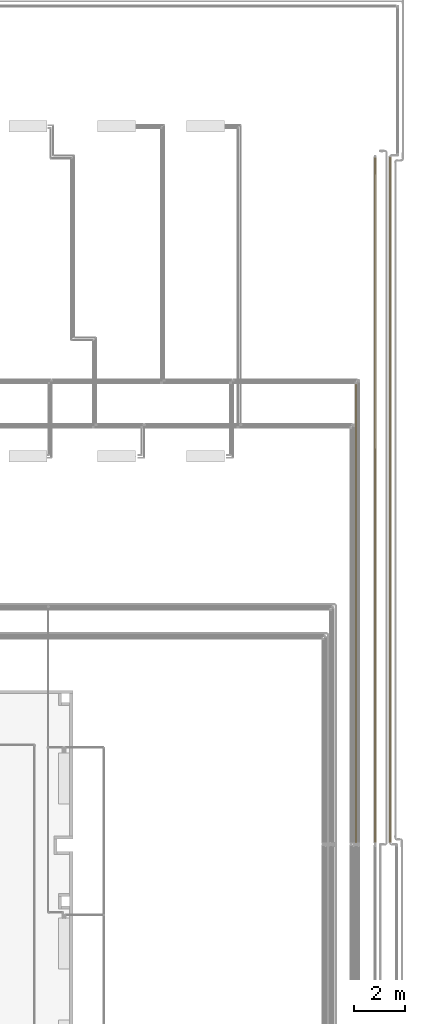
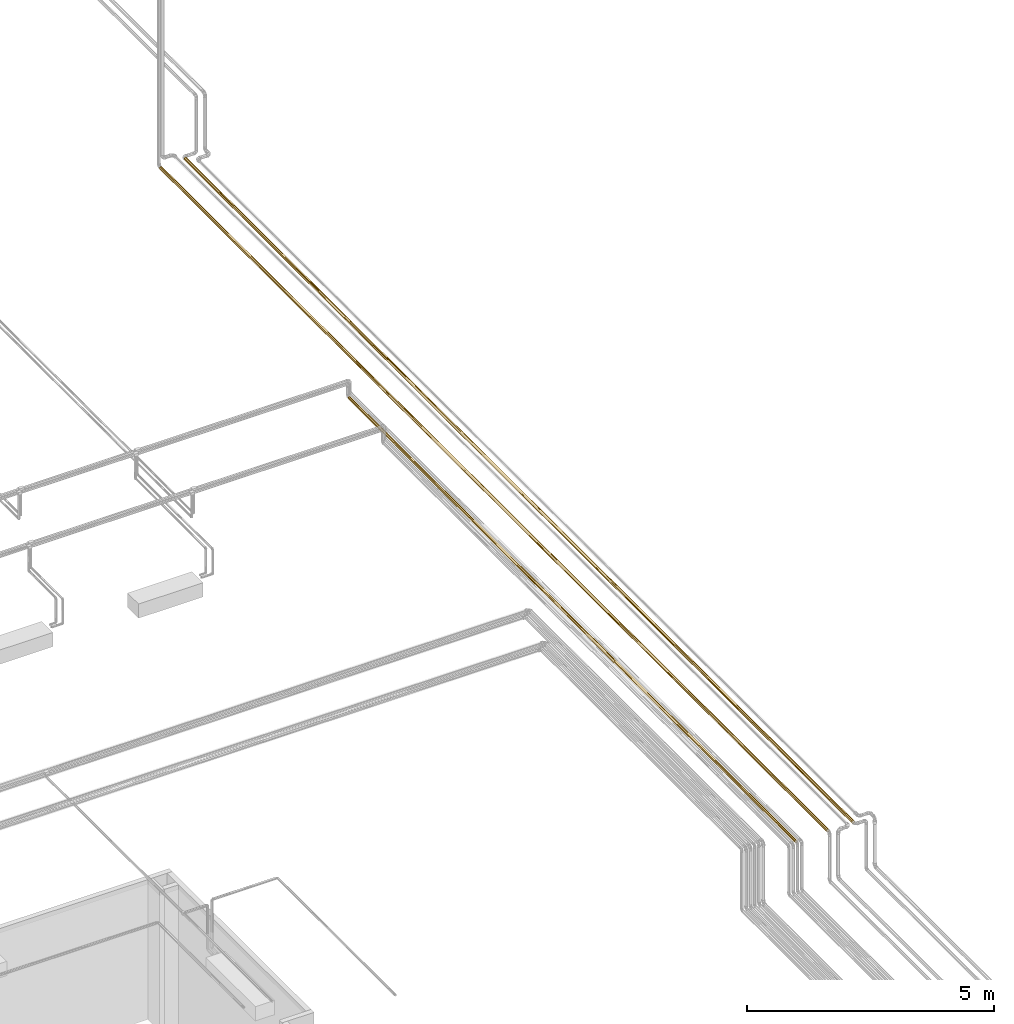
# One storey, part 138 of 652: 3 coverings.
"""IFC2X3 building model written with IfcOpenShell, lengths in millimetres."""

from ifc_helpers import new_model, entity, si_unit, converted_unit, direction, frame, origin, place, context, subcontext, project, spatial, faceted_brep, material, type_object, element, save


model = new_model("IFC2X3")

# Units and contexts
model_context = context("Model", 3, precision=0.01, world=frame((0.0, 0.0, 308426.39999999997)), true_north=direction((6.123233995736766e-17, 1.0)))
plan_context = context("Plan", 3, precision=0.01, world=frame((0.0, 0.0, 308426.39999999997)), true_north=direction((6.123233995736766e-17, 1.0)))
body_context = subcontext(model_context, "Body", "Model", "MODEL_VIEW")
ifc_project = project(units=[si_unit("LENGTHUNIT", "METRE", prefix="MILLI"), si_unit("AREAUNIT", "SQUARE_METRE"), si_unit("VOLUMEUNIT", "CUBIC_METRE"), converted_unit("PLANEANGLEUNIT", "DEGREE", entity("IfcPlaneAngleMeasure", 0.017453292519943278), si_unit("PLANEANGLEUNIT", "RADIAN"), dimensions=[0, 0, 0, 0, 0, 0, 0])], contexts=[model_context, plan_context])

# Site, building, storey
site_placement = place(None, origin())
site = spatial("IfcSite", under=ifc_project, at=site_placement, Name="Default", CompositionType="ELEMENT")
building_placement = place(site_placement, origin())
building = spatial("IfcBuilding", under=site, at=building_placement, CompositionType="ELEMENT")
storey_placement = place(building_placement, frame((0.0, 0.0, 1730.6999999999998)))
storey = spatial("IfcBuildingStorey", under=building, at=storey_placement, Name="EG_Produktion_FFB", CompositionType="ELEMENT", Elevation=1730.6999999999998)

# Coverings
ifc_material = material(Name="Dämmung - Armaflex-Schlauch")
covering_type = type_object("IfcCoveringType", Name="Rohrdämmung außen:Armaflex-Schlauch", PredefinedType="INSULATION")
covering_1_placement = place(storey_placement, frame((79083.9974754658, 51712.278353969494, 3561.9047277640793)))
element("IfcCovering", 1, at=covering_1_placement, inside=storey, type_object=covering_type, material=ifc_material, Name="Rohrdämmung außen:Armaflex-Schlauch", ObjectType="Rohrdämmung außen:Armaflex-Schlauch", PredefinedType="INSULATION", context=body_context, shape_type="Brep", body=[
    faceted_brep([(63.9046697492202, 26992.20174999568, 12.285874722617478), (57.45232037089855, 26992.20174999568, 9.61322410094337), (50.99997099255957, 26992.20174999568, 6.940573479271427), (44.172828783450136, 26992.20174999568, 4.112678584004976), (38.09527223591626, 26992.20174999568, 1.5952722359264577), (31.642922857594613, 26992.20174999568, 4.267922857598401), (25.190573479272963, 26992.20174999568, 6.940573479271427), (18.73822410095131, 26992.20174999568, 9.61322410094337), (12.285874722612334, 26992.20174999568, 12.285874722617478), (9.61322410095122, 26992.20174999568, 18.738224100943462), (6.94057347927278, 26992.20174999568, 25.19057347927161), (4.112678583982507, 26992.20174999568, 32.017715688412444), (1.5952722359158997, 26992.20174999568, 38.09527223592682), (4.26792285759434, 26992.20174999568, 44.54762161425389), (6.94057347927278, 26992.20174999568, 50.999970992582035), (9.61322410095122, 26992.20174999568, 57.452320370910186), (12.285874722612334, 26992.20174999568, 63.90466974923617), (18.73822410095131, 26992.20174999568, 66.57732037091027), (25.190573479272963, 26992.20174999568, 69.24997099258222), (32.017715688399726, 26992.20174999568, 72.07786588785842), (38.09527223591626, 26992.20174999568, 74.59527223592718), (44.54762161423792, 26992.20174999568, 71.92262161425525), (50.99997099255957, 26992.20174999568, 69.24997099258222), (57.45232037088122, 26992.201749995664, 66.57732037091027), (63.9046697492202, 26992.20174999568, 63.90466974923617), (66.57732037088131, 26992.20174999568, 57.452320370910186), (69.24997099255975, 26992.20174999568, 50.999970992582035), (72.07786588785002, 26992.20174999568, 44.17282878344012), (74.59527223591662, 26992.20174999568, 38.09527223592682), (71.9226216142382, 26992.20174999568, 31.642922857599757), (69.24997099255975, 26992.20174999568, 25.19057347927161), (66.57732037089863, 26992.20174999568, 18.738224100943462), (63.9046697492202, 0.0, 63.90466974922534), (57.45232037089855, 0.0, 66.57732037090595), (50.99997099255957, 0.0, 69.24997099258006), (44.172828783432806, 0.0, 72.07786588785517), (38.09527223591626, 0.0, 74.59527223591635), (32.017715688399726, 0.0, 72.07786588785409), (25.94015914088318, 0.0, 69.56045953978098), (19.113016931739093, 0.0, 66.73256464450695), (12.285874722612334, 0.0, 63.90466974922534), (9.613224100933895, 0.0, 57.452320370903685), (6.94057347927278, 0.0, 50.999970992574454), (4.112678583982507, 0.0, 44.17282878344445), (1.5952722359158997, 0.0, 38.09527223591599), (4.112678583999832, 0.0, 32.01771568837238), (6.630084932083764, 0.0, 25.94015914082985), (9.457979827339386, 0.0, 19.113016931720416), (12.285874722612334, 0.0, 12.28587472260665), (18.738224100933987, 0.0, 9.613224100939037), (25.190573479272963, 0.0, 6.940573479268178), (32.01771568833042, 0.0, 4.1126785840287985), (38.09527223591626, 0.0, 1.595272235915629), (44.17282878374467, 0.0, 4.112678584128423), (50.25038533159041, 0.0, 6.6300849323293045), (57.0775275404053, 0.0, 9.45797982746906), (63.9046697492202, 0.0, 12.28587472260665), (66.57732037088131, 0.0, 18.73822410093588), (69.24997099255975, 0.0, 25.190573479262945), (72.077865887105, 0.0, 32.017715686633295), (74.59527223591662, 0.0, 38.09527223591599), (72.0778658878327, 0.0, 44.17282878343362), (69.56045953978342, 0.0, 50.25038533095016), (66.73256464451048, 0.0, 57.077527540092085), (73.08344756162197, 10332.713380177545, 27.699235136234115), (68.44391308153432, 13496.100872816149, 17.816958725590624), (73.80179550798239, 19757.87532379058, 30.525979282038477), (74.59527223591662, 13500.936145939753, 38.095272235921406), (74.59527223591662, 13496.10087499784, 38.095272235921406), (71.29040443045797, 19041.46223321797, 22.918540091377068), (63.726674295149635, 10556.599128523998, 12.109098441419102), (64.13432607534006, 18514.534014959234, 12.517592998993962), (45.57509309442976, 7533.188062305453, 2.3698991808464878), (38.09527223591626, 13496.10087499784, 1.5952722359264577), (38.09527223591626, 13501.058250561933, 1.5952722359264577), (53.576602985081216, 8100.38803177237, 5.041098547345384), (58.373585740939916, 14535.566574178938, 7.746631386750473), (48.49130932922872, 16660.6212593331, 3.10709690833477), (30.52597928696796, 19757.87532781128, 2.388748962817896), (12.408631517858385, 16404.0607295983, 12.163699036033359), (17.81695872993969, 13496.100874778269, 7.746631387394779), (27.699235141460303, 10332.713382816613, 3.1070969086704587), (12.0223308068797, 8849.853165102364, 12.552137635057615), (22.918540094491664, 19041.46223891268, 4.900140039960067), (2.369899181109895, 7533.188062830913, 30.615451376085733), (1.5952722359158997, 13494.262920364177, 38.095272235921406), (1.5952722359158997, 13501.631308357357, 38.095272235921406), (5.041098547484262, 8100.388029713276, 22.61394148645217), (7.746631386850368, 14535.566570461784, 17.816958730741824), (3.1070969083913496, 16660.621260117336, 27.699235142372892), (2.3887489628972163, 19757.875327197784, 45.664565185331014), (12.163699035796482, 16404.060729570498, 63.78191295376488), (7.746631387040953, 13496.100874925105, 58.37358574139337), (3.107096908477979, 10332.71338193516, 48.49130932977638), (12.552137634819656, 8849.853165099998, 64.1682136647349), (4.9001400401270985, 19041.462239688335, 53.27200437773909), (30.61545137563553, 7533.18806300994, 73.82064529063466), (38.09527223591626, 13496.100874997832, 74.59527223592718), (38.09527223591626, 13500.936146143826, 74.59527223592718), (22.61394148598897, 8100.388029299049, 71.149445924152), (17.816958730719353, 14535.56657030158, 68.44391308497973), (27.699235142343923, 16660.62126031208, 73.083447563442), (45.66456518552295, 19757.875326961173, 73.80179550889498), (63.78191295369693, 16404.060729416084, 64.02684543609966), (58.37358574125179, 13496.100874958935, 68.44391308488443), (48.49130932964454, 10332.7133816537, 73.08344756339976), (64.16821366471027, 8849.853165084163, 63.63840683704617), (53.272004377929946, 19041.46223995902, 71.29040443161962), (73.82064529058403, 7533.188063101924, 45.575093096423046), (71.14944592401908, 8100.388029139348, 53.57660298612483), (68.44391308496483, 14535.56657037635, 58.37358574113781), (73.08344756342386, 16660.621260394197, 48.49130932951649)], [[[0, 1, 2, 3, 4, 5, 6, 7, 8, 9, 10, 11, 12, 13, 14, 15, 16, 17, 18, 19, 20, 21, 22, 23, 24, 25, 26, 27, 28, 29, 30, 31]], [[32, 33, 34, 35, 36, 37, 38, 39, 40, 41, 42, 43, 44, 45, 46, 47, 48, 49, 50, 51, 52, 53, 54, 55, 56, 57, 58, 59, 60, 61, 62, 63]], [[58, 64, 59]], [[65, 58, 57]], [[66, 28, 67, 68]], [[30, 69, 31]], [[65, 70, 71]], [[64, 66, 68]], [[72, 52, 73, 74]], [[70, 75, 76]], [[68, 60, 59]], [[64, 68, 59]], [[77, 3, 2]], [[76, 77, 2]], [[71, 1, 0]], [[72, 74, 77]], [[31, 69, 71]], [[70, 76, 71]], [[57, 56, 70]], [[58, 65, 64]], [[66, 69, 30]], [[69, 64, 65]], [[66, 30, 29, 28]], [[64, 69, 66]], [[69, 65, 71]], [[74, 3, 77]], [[74, 4, 3]], [[72, 75, 54]], [[75, 77, 76]], [[72, 54, 53, 52]], [[77, 75, 72]], [[76, 2, 1]], [[70, 55, 75]], [[55, 54, 75]], [[1, 71, 76]], [[31, 71, 0]], [[57, 70, 65]], [[55, 70, 56]], [[78, 4, 74, 73]], [[79, 7, 80]], [[51, 81, 73]], [[80, 50, 49]], [[80, 82, 79]], [[7, 6, 83]], [[84, 44, 85, 86]], [[82, 87, 88]], [[81, 78, 73]], [[81, 51, 50]], [[11, 89, 86]], [[89, 11, 10]], [[79, 9, 8]], [[84, 86, 89]], [[82, 88, 79]], [[49, 48, 82]], [[73, 52, 51]], [[50, 80, 81]], [[78, 83, 6]], [[83, 81, 80]], [[78, 6, 5, 4]], [[81, 83, 78]], [[7, 83, 80]], [[86, 12, 11]], [[88, 89, 10]], [[84, 87, 46]], [[87, 89, 88]], [[84, 46, 45, 44]], [[89, 87, 84]], [[88, 10, 9]], [[82, 47, 87]], [[47, 46, 87]], [[49, 82, 80]], [[47, 82, 48]], [[9, 79, 88]], [[7, 79, 8]], [[90, 12, 86, 85]], [[91, 15, 92]], [[43, 93, 85]], [[92, 42, 41]], [[92, 94, 91]], [[15, 14, 95]], [[96, 36, 97, 98]], [[94, 99, 100]], [[93, 90, 85]], [[93, 43, 42]], [[19, 101, 98]], [[101, 19, 18]], [[91, 17, 16]], [[96, 98, 101]], [[94, 100, 91]], [[41, 40, 94]], [[85, 44, 43]], [[42, 92, 93]], [[90, 95, 14]], [[95, 93, 92]], [[90, 14, 13, 12]], [[93, 95, 90]], [[15, 95, 92]], [[98, 20, 19]], [[100, 101, 18]], [[96, 99, 38]], [[99, 101, 100]], [[96, 38, 37, 36]], [[101, 99, 96]], [[100, 18, 17]], [[94, 39, 99]], [[39, 38, 99]], [[41, 94, 92]], [[39, 94, 40]], [[17, 91, 100]], [[15, 91, 16]], [[102, 20, 98, 97]], [[103, 23, 104]], [[35, 105, 97]], [[104, 34, 33]], [[104, 106, 103]], [[23, 22, 107]], [[108, 60, 68, 67]], [[106, 109, 110]], [[105, 102, 97]], [[105, 35, 34]], [[27, 111, 67]], [[111, 27, 26]], [[103, 25, 24]], [[108, 67, 111]], [[106, 110, 103]], [[33, 32, 106]], [[97, 36, 35]], [[34, 104, 105]], [[102, 107, 22]], [[107, 105, 104]], [[102, 22, 21, 20]], [[105, 107, 102]], [[23, 107, 104]], [[67, 28, 27]], [[110, 111, 26]], [[108, 109, 62]], [[109, 111, 110]], [[108, 62, 61, 60]], [[111, 109, 108]], [[110, 26, 25]], [[106, 63, 109]], [[63, 62, 109]], [[33, 106, 104]], [[63, 106, 32]], [[25, 103, 110]], [[23, 103, 24]]]),
])
covering_2_placement = place(storey_placement, frame((78491.9047277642, 51712.27835396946, 3638.095272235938)))
element("IfcCovering", 2, at=covering_2_placement, inside=storey, type_object=covering_type, material=ifc_material, Name="Rohrdämmung außen:Armaflex-Schlauch", ObjectType="Rohrdämmung außen:Armaflex-Schlauch", PredefinedType="INSULATION", context=body_context, shape_type="Brep", body=[
    faceted_brep([(63.9046697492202, 0.0, -12.285874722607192), (57.45232037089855, 0.0, -9.613224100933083), (50.99997099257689, 0.0, -6.940573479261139), (44.172828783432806, 0.0, -4.112678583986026), (38.09527223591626, 0.0, -1.5952722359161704), (31.64292285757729, 0.0, -4.267922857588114), (25.190573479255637, 0.0, -6.940573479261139), (18.738224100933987, 0.0, -9.613224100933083), (12.285874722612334, 0.0, -12.285874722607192), (9.613224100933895, 0.0, -18.738224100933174), (6.9405734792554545, 0.0, -25.19057347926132), (4.112678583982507, 0.0, -32.01771568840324), (1.5952722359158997, 0.0, -38.09527223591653), (4.267922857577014, 0.0, -44.54762161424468), (6.9405734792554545, 0.0, -50.99997099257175), (9.613224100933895, 0.0, -57.4523203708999), (12.285874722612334, 0.0, -63.90466974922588), (18.738224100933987, 0.0, -66.57732037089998), (25.190573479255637, 0.0, -69.24997099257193), (32.017715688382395, 0.0, -72.07786588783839), (38.09527223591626, 0.0, -74.5952722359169), (44.54762161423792, 0.0, -71.92262161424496), (50.99997099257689, 0.0, -69.24997099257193), (57.45232037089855, 0.0, -66.57732037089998), (63.9046697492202, 0.0, -63.90466974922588), (66.57732037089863, 0.0, -57.4523203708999), (69.24997099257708, 0.0, -50.99997099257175), (72.07786588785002, 0.0, -44.172828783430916), (74.59527223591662, 0.0, -38.09527223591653), (71.92262161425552, 0.0, -31.64292285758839), (69.24997099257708, 0.0, -25.19057347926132), (66.57732037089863, 0.0, -18.738224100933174), (63.904669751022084, 26962.332307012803, -63.90466974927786), (57.4523203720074, 26962.332307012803, -66.57732037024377), (50.999970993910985, 26962.332307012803, -69.24997099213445), (44.17282878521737, 26962.332307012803, -72.077865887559), (38.095272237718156, 26962.332307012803, -74.59527223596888), (32.017715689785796, 26962.332307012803, -72.07786588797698), (25.940159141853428, 26962.332307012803, -69.56045954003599), (19.113016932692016, 26962.332307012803, -66.7325646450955), (12.285874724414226, 26962.332307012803, -63.90466974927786), (9.61322410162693, 26962.332307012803, -57.452320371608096), (6.940573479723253, 26962.332307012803, -50.999970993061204), (4.112678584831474, 26962.332307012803, -44.172828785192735), (1.5952722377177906, 26962.332307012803, -38.095272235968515), (4.26792285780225, 26962.332307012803, -31.642922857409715), (6.940573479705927, 26962.332307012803, -25.19057347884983), (9.613224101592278, 26962.332307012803, -18.73822410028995), (12.285874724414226, 26962.332307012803, -12.285874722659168), (19.113016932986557, 26962.332307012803, -9.457979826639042), (25.94015914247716, 26962.332307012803, -6.630084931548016), (32.01771569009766, 26962.332307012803, -4.112678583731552), (38.095272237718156, 26962.332307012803, -1.5952722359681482), (44.54762161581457, 26962.332307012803, -4.267922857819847), (50.99997099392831, 26962.332307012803, -6.940573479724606), (57.45232037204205, 26962.332307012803, -9.613224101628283), (63.904669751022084, 26962.332307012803, -12.285874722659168), (66.73256464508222, 26962.332307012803, -19.113016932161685), (69.560459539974, 26962.332307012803, -25.94015914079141), (72.07786588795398, 26962.332307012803, -32.01771568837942), (74.59527223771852, 26962.332307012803, -38.095272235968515), (72.07786588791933, 26962.332307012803, -44.172828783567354), (69.56045953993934, 26962.332307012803, -50.25038533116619), (66.73256464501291, 26962.332307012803, -57.0775275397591), (3.107096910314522, 16633.115121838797, -48.49130933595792), (7.74663139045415, 13481.166156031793, -58.373585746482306), (2.3867652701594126, 7217.221091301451, -45.655201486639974), (1.5952722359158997, 13481.16615350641, -38.095272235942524), (12.547895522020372, 18120.775377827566, -64.16405707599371), (12.164317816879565, 10560.276754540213, -63.782537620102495), (4.894880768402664, 7951.331193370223, -53.260495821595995), (22.63481744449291, 18861.949108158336, -71.15921540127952), (17.816958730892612, 12455.491905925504, -68.44391308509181), (30.63038395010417, 19444.399929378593, -73.8237684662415), (38.09527223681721, 13481.101222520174, -74.5952722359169), (38.09527223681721, 13461.46397605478, -74.5952722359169), (27.699235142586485, 10324.60261616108, -73.08344756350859), (1.5952722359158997, 13500.93614593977, -38.095272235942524), (45.65520148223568, 7217.221087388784, -73.80377920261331), (63.78253761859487, 10560.276752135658, -64.02622665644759), (58.373585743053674, 13481.166154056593, -68.44391308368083), (48.49130933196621, 16633.115118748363, -73.08344756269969), (64.16405707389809, 18120.775377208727, -63.6426489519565), (53.26049581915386, 7951.331187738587, -71.29566370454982), (74.59527223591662, 13464.27548533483, -38.095272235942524), (73.82376846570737, 19444.39992888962, -45.56016052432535), (71.15921540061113, 18861.949110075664, -53.55572702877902), (68.44391308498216, 12455.491908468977, -58.373585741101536), (73.08344756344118, 10324.602614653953, -48.49130932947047), (74.59527223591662, 13459.534758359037, -38.095272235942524), (73.9728190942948, 20211.86423364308, -31.38322102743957), (64.13104295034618, 18487.72532670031, -12.514251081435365), (58.37358574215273, 14506.84039786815, -7.746631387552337), (63.728594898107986, 10525.955468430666, -12.110992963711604), (45.662875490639, 19745.94371502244, -2.3883908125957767), (38.095272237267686, 20211.867471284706, -1.5952722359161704), (38.09527223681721, 13500.928015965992, -1.5952722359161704), (73.17244163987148, 9986.965550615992, -28.003583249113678), (48.49130932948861, 10333.847193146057, -3.1070969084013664), (71.56252078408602, 18728.591472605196, -23.528416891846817), (68.44391308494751, 13481.166153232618, -17.816958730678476), (52.12095197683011, 16687.866440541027, -4.397641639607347), (38.09527223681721, 13461.402635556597, -1.5952722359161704), (30.46691407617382, 7282.528483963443, -2.4013210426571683), (12.514251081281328, 18487.725326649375, -12.059501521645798), (7.746631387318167, 14506.840397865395, -17.81695873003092), (28.09895012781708, 16836.63019801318, -2.99080607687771), (17.816958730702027, 13481.16615321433, -7.746631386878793), (2.3883908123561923, 19745.943715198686, -30.527668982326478), (3.1070969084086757, 10333.847193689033, -27.69923514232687), (22.877778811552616, 7920.771241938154, -4.918806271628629), (12.110992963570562, 10525.955468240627, -12.461949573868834), (4.397641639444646, 16687.86644159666, -24.069592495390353)], [[[0, 1, 2, 3, 4, 5, 6, 7, 8, 9, 10, 11, 12, 13, 14, 15, 16, 17, 18, 19, 20, 21, 22, 23, 24, 25, 26, 27, 28, 29, 30, 31]], [[32, 33, 34, 35, 36, 37, 38, 39, 40, 41, 42, 43, 44, 45, 46, 47, 48, 49, 50, 51, 52, 53, 54, 55, 56, 57, 58, 59, 60, 61, 62, 63]], [[42, 64, 43]], [[65, 42, 41]], [[66, 12, 67]], [[43, 64, 67]], [[65, 68, 69]], [[64, 66, 67]], [[15, 14, 70]], [[68, 71, 72]], [[69, 15, 65]], [[73, 36, 74, 75]], [[19, 76, 75]], [[76, 19, 18]], [[69, 17, 16]], [[73, 75, 76]], [[68, 72, 69]], [[41, 40, 68]], [[43, 67, 77, 44]], [[42, 65, 64]], [[66, 70, 14]], [[70, 64, 65]], [[66, 14, 13, 12]], [[64, 70, 66]], [[15, 70, 65]], [[75, 20, 19]], [[72, 76, 18]], [[73, 71, 38]], [[71, 76, 72]], [[73, 38, 37, 36]], [[76, 71, 73]], [[72, 18, 17]], [[68, 39, 71]], [[39, 38, 71]], [[41, 68, 65]], [[39, 68, 40]], [[17, 69, 72]], [[15, 69, 16]], [[78, 20, 75, 74]], [[79, 23, 80]], [[35, 81, 74]], [[80, 34, 33]], [[80, 82, 79]], [[23, 22, 83]], [[60, 84, 85]], [[82, 86, 87]], [[81, 78, 74]], [[81, 35, 34]], [[88, 27, 26]], [[87, 88, 26]], [[79, 25, 24]], [[85, 84, 88]], [[82, 87, 79]], [[33, 32, 82]], [[74, 36, 35]], [[34, 80, 81]], [[78, 83, 22]], [[83, 81, 80]], [[78, 22, 21, 20]], [[81, 83, 78]], [[23, 83, 80]], [[84, 27, 88]], [[27, 84, 89, 28]], [[85, 86, 62]], [[86, 88, 87]], [[85, 62, 61, 60]], [[88, 86, 85]], [[87, 26, 25]], [[82, 63, 86]], [[63, 62, 86]], [[33, 82, 80]], [[63, 82, 32]], [[25, 79, 87]], [[23, 79, 24]], [[90, 89, 84, 60]], [[91, 92, 93]], [[94, 52, 95, 96]], [[97, 89, 90]], [[94, 96, 98]], [[92, 1, 93]], [[99, 57, 100]], [[90, 60, 59, 58]], [[97, 28, 89]], [[31, 30, 100]], [[101, 55, 54]], [[3, 2, 1, 98]], [[91, 93, 100]], [[1, 0, 93]], [[58, 99, 90]], [[93, 31, 100]], [[97, 90, 99]], [[97, 30, 29, 28]], [[56, 91, 57]], [[97, 99, 100]], [[99, 58, 57]], [[100, 30, 97]], [[96, 3, 98]], [[3, 96, 102, 4]], [[91, 55, 92]], [[101, 94, 98]], [[94, 54, 53, 52]], [[57, 91, 100]], [[91, 56, 55]], [[98, 1, 92]], [[31, 93, 0]], [[54, 94, 101]], [[98, 92, 101]], [[101, 92, 55]], [[103, 4, 102]], [[104, 47, 105]], [[102, 106, 103]], [[106, 95, 51]], [[107, 50, 49]], [[108, 77, 109]], [[50, 106, 51]], [[49, 48, 104]], [[44, 77, 108]], [[6, 110, 7]], [[109, 11, 10, 9]], [[109, 77, 11]], [[107, 7, 110]], [[9, 8, 111]], [[106, 102, 96, 95]], [[95, 52, 51]], [[107, 106, 50]], [[103, 110, 6]], [[110, 106, 107]], [[103, 6, 5, 4]], [[106, 110, 103]], [[111, 7, 107]], [[109, 9, 105]], [[104, 105, 111]], [[11, 77, 67, 12]], [[111, 107, 104]], [[112, 108, 109]], [[108, 46, 45, 44]], [[46, 108, 112]], [[47, 46, 112]], [[49, 104, 107]], [[47, 104, 48]], [[9, 111, 105]], [[7, 111, 8]], [[109, 105, 112]], [[112, 105, 47]]]),
])
covering_3_placement = place(storey_placement, frame((77745.11722776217, 51698.079103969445, 3565.1172277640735)))
element("IfcCovering", 3, at=covering_3_placement, inside=storey, type_object=covering_type, material=ifc_material, Name="Rohrdämmung außen:Armaflex-Schlauch", ObjectType="Rohrdämmung außen:Armaflex-Schlauch", PredefinedType="INSULATION", context=body_context, shape_type="Brep", body=[
    faceted_brep([(17.22940950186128, 0.0, 8.907534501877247), (23.11386374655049, 0.0, 6.470113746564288), (28.998317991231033, 0.0, 4.032692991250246), (34.88277223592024, 0.0, 1.5952722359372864), (40.686715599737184, 0.0, 3.999344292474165), (46.65168072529, 0.0, 6.470113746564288), (52.53613496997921, 0.0, 8.907534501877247), (58.42058921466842, 0.0, 11.344955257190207), (60.85800996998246, 0.0, 17.22940950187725), (63.295430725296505, 0.0, 23.113863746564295), (65.73285148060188, 0.0, 28.998317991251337), (68.17027223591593, 0.0, 34.882772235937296), (65.76620017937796, 0.0, 40.68671559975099), (63.295430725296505, 0.0, 46.65168072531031), (60.85800996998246, 0.0, 52.53613496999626), (58.42058921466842, 0.0, 58.42058921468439), (52.53613496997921, 0.0, 60.85800996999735), (46.65168072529, 0.0, 63.29543072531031), (40.76722648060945, 0.0, 65.73285148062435), (34.88277223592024, 0.0, 68.17027223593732), (29.078828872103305, 0.0, 65.76620017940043), (23.27488550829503, 0.0, 63.36212812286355), (17.309920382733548, 0.0, 60.891358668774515), (11.344955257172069, 0.0, 58.42058921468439), (8.907534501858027, 0.0, 52.53613496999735), (6.470113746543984, 0.0, 46.65168072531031), (4.0326929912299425, 0.0, 40.76722648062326), (1.5952722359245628, 0.0, 34.882772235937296), (4.0326929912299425, 0.0, 28.998317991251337), (6.470113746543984, 0.0, 23.113863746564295), (8.90753450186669, 0.0, 17.22940950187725), (11.344955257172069, 0.0, 11.344955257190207), (1.5952722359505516, 18056.870146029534, 34.88277223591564), (3.999344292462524, 18056.870146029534, 40.6867155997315), (6.403416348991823, 18056.870146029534, 46.490658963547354), (8.874185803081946, 18056.870146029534, 52.45562408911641), (11.344955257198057, 18056.870146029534, 58.42058921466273), (17.22940950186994, 18056.870146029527, 60.858009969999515), (23.11386374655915, 18056.870146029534, 63.29543072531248), (28.99831799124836, 18056.870146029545, 65.73285148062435), (34.882772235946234, 18056.870146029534, 68.17027223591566), (40.68671559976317, 18056.870146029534, 65.76620017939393), (46.49065896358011, 18056.870146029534, 63.36212812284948), (52.455624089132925, 18056.870146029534, 60.891358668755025), (58.42058921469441, 18056.870146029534, 58.42058921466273), (60.858009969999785, 18056.870146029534, 52.536134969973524), (63.29543072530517, 18056.870146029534, 46.65168072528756), (65.73285148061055, 18056.870146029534, 40.7672264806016), (68.17027223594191, 18056.870146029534, 34.88277223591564), (65.7662001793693, 18056.870146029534, 29.078828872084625), (63.362128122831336, 18056.870146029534, 23.27488550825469), (60.89135866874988, 18056.870146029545, 17.309920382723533), (58.42058921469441, 18056.870146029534, 11.34495525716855), (52.53613496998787, 18056.870146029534, 8.907534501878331), (46.65168072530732, 18056.870146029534, 6.470113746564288), (40.76722648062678, 18056.870146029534, 4.032692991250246), (34.882772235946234, 18056.870146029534, 1.595272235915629), (29.078828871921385, 18056.870146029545, 3.999344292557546), (23.274885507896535, 18056.870146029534, 6.403416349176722), (17.309920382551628, 18056.870146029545, 8.874185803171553), (11.344955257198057, 18056.870146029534, 11.34495525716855), (8.907534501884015, 18056.870146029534, 17.22940950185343), (6.47011374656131, 18056.870146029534, 23.11386374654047), (3.9993442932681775, 18056.870146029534, 29.07882887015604), (2.8652724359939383, 8832.25987802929, 25.775776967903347), (7.205227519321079, 9028.435074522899, 16.38922809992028), (1.5952722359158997, 11610.309902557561, 34.88277223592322), (16.38922810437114, 8101.187082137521, 7.205227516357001), (25.775776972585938, 8832.259874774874, 2.865272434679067), (34.882772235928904, 11610.031161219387, 1.5952722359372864), (11.469899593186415, 11049.263262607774, 11.22067066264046), (34.882772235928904, 6446.595807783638, 1.5952722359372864), (43.989767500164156, 9224.610271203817, 2.8652724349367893), (66.90027203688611, 8832.259875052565, 25.775776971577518), (53.376316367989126, 9028.43507316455, 7.205227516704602), (62.56031695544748, 8101.187079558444, 16.38922810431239), (68.17027223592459, 11610.309909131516, 34.88277223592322), (58.54487380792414, 11049.263261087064, 11.469899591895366), (68.17027223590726, 6446.560236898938, 34.88277223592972), (66.90027203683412, 9224.610270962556, 43.989767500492), (43.98976750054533, 8832.25987514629, 66.90027203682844), (62.560316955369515, 9028.435073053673, 53.376316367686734), (53.37631636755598, 8101.187078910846, 62.56031695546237), (34.88277223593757, 11610.309909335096, 68.17027223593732), (58.29564487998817, 11049.2632610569, 58.54487380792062), (34.882772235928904, 6446.560236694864, 68.17027223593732), (16.389228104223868, 9955.683067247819, 62.56031695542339), (25.775776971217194, 9224.610270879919, 66.90027203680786), (7.205227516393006, 8101.187078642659, 53.37631636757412), (2.8652724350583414, 8832.25987519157, 43.98976750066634), (11.556638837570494, 6927.642059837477, 58.6303859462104)], [[[0, 1, 2, 3, 4, 5, 6, 7, 8, 9, 10, 11, 12, 13, 14, 15, 16, 17, 18, 19, 20, 21, 22, 23, 24, 25, 26, 27, 28, 29, 30, 31]], [[32, 33, 34, 35, 36, 37, 38, 39, 40, 41, 42, 43, 44, 45, 46, 47, 48, 49, 50, 51, 52, 53, 54, 55, 56, 57, 58, 59, 60, 61, 62, 63]], [[64, 62, 65]], [[65, 62, 61]], [[64, 28, 66]], [[65, 31, 30, 29]], [[1, 67, 68]], [[68, 57, 69]], [[69, 2, 68]], [[70, 59, 67]], [[68, 58, 57]], [[68, 67, 58]], [[57, 56, 69]], [[2, 69, 71, 3]], [[67, 1, 0, 31]], [[70, 31, 65]], [[67, 59, 58]], [[62, 64, 63]], [[65, 61, 70]], [[66, 32, 63]], [[28, 27, 66]], [[64, 65, 29]], [[66, 63, 64]], [[2, 1, 68]], [[59, 70, 60]], [[60, 70, 61]], [[31, 70, 67]], [[64, 29, 28]], [[71, 55, 72]], [[73, 50, 49]], [[74, 54, 53]], [[9, 75, 73]], [[76, 10, 73]], [[73, 75, 50]], [[77, 51, 75]], [[73, 49, 76]], [[72, 5, 4]], [[49, 48, 76]], [[10, 76, 78, 11]], [[75, 9, 8, 7]], [[74, 7, 6, 5]], [[75, 51, 50]], [[74, 53, 77]], [[77, 7, 74]], [[5, 72, 74]], [[72, 4, 71]], [[4, 3, 71]], [[55, 71, 69, 56]], [[72, 54, 74]], [[10, 9, 73]], [[51, 77, 52]], [[77, 53, 52]], [[7, 77, 75]], [[55, 54, 72]], [[78, 47, 79]], [[80, 42, 41]], [[81, 46, 45]], [[17, 82, 80]], [[83, 18, 80]], [[80, 82, 42]], [[84, 43, 82]], [[80, 41, 83]], [[79, 13, 12]], [[41, 40, 83]], [[18, 83, 85, 19]], [[82, 17, 16, 15]], [[81, 15, 14, 13]], [[82, 43, 42]], [[81, 45, 84]], [[84, 15, 81]], [[13, 79, 81]], [[79, 12, 78]], [[12, 11, 78]], [[47, 78, 76, 48]], [[79, 46, 81]], [[18, 17, 80]], [[43, 84, 44]], [[84, 45, 44]], [[15, 84, 82]], [[47, 46, 79]], [[38, 86, 87]], [[85, 20, 19]], [[39, 85, 83, 40]], [[87, 20, 85]], [[85, 39, 87]], [[25, 88, 89]], [[66, 26, 89]], [[89, 88, 34]], [[22, 90, 23]], [[90, 22, 86]], [[21, 87, 86]], [[20, 87, 21]], [[86, 38, 37, 36]], [[88, 36, 35, 34]], [[86, 22, 21]], [[89, 33, 66]], [[89, 34, 33]], [[33, 32, 66]], [[26, 66, 27]], [[88, 25, 24]], [[88, 24, 90]], [[90, 36, 88]], [[39, 38, 87]], [[26, 25, 89]], [[90, 24, 23]], [[36, 90, 86]]]),
])

save(model, "model.ifc")
